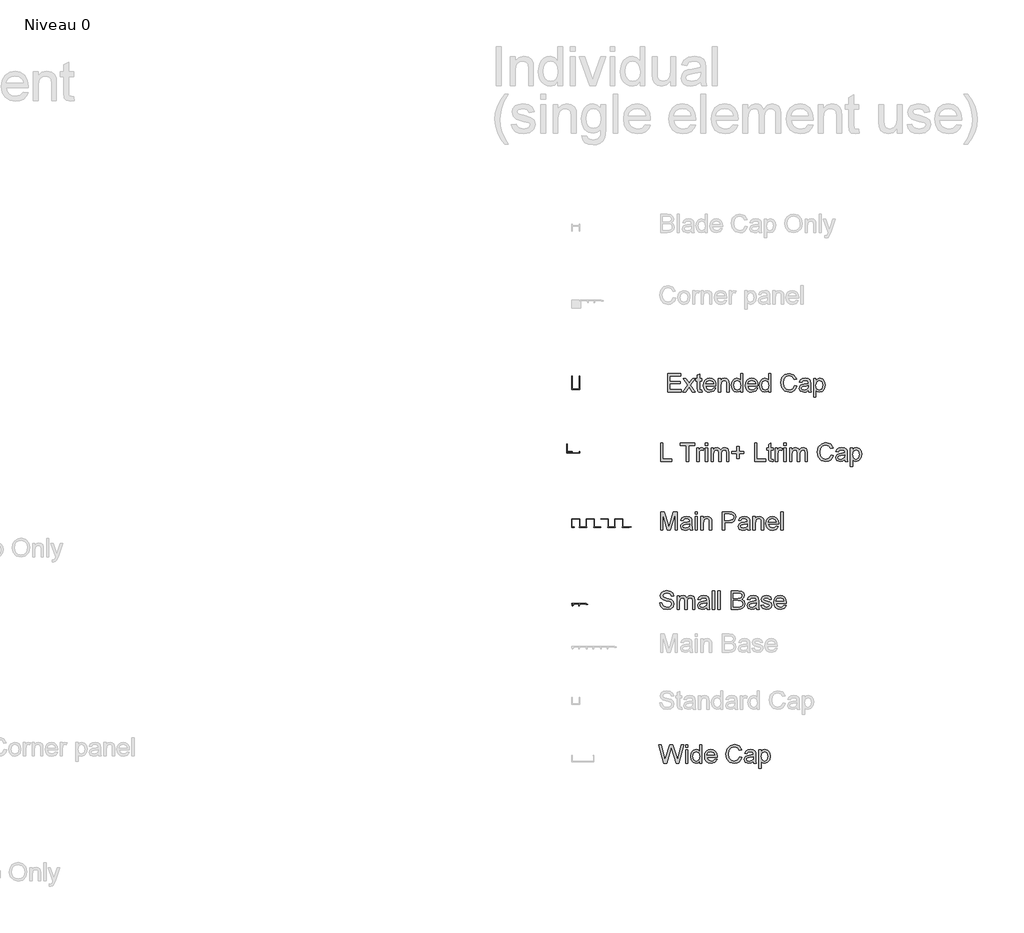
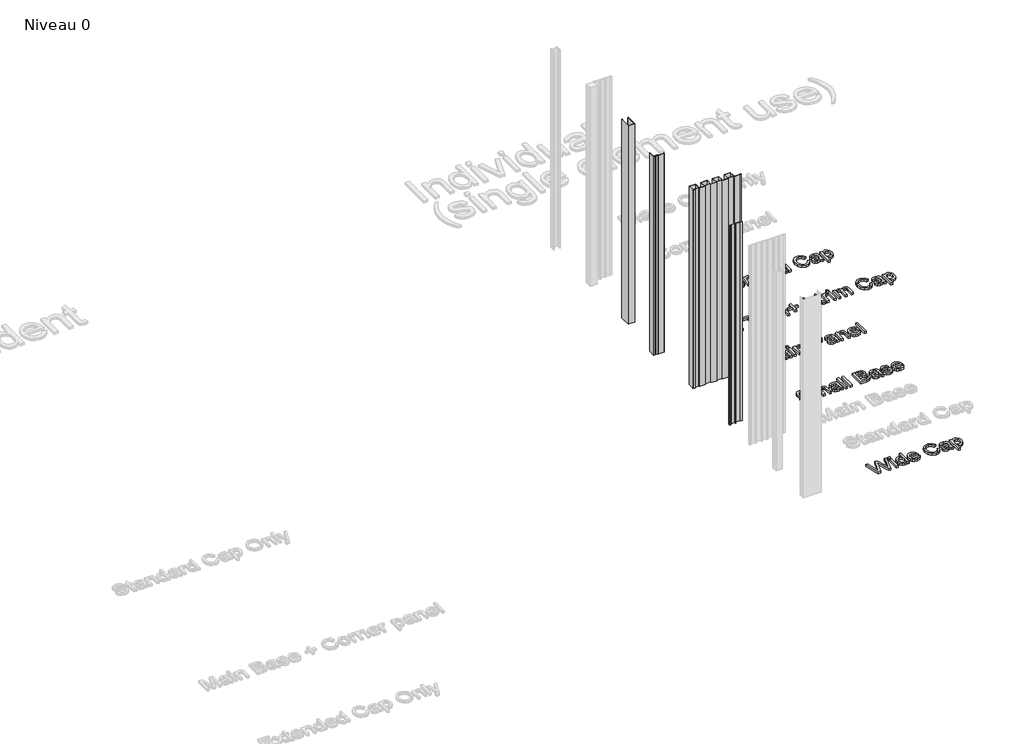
# One storey, part 23 of 25: 9 proxies.
"""IFC4 building model written with IfcOpenShell, lengths in millimetres."""

from ifc_helpers import new_model, si_unit, origin, origin_with_axes, place, context, project, spatial, polyline, outline, extrude, transform, mapped, element, save
from components import generic_models_2e917140, a_gen_extended_cap_a_gen_extended_cap_70ccaa3f, a_gen_l_trim_a_gen_l_trim_de64ca03, a_gen_main_panel_a_gen_main_panel_c979ea81

model = new_model("IFC4")

# Units and contexts
model_context = context("Model", 3, world=origin())
ifc_project = project(units=[si_unit("LENGTHUNIT", "METRE", prefix="MILLI")], contexts=[model_context])

# Site, building, storey
site = spatial("IfcSite", under=ifc_project)
building = spatial("IfcBuilding", under=site)
storey = spatial("IfcBuildingStorey", under=building, Name="Niveau 0", Elevation=0.0)

# Proxies
placement = place(None, origin())
generic_models_shape = generic_models_2e917140(model_context)
element("IfcBuildingElementProxy", 1, Name="A_GEN_ Small  Base : A_GEN_ Small  Base", ObjectType="A_GEN_ Small  Base : A_GEN_ Small  Base", at=placement, inside=storey, context=model_context, shape_type="MappedRepresentation", body=[
    mapped(generic_models_shape, transform((11211.7460162, 3111.5428955, 0.0), x_axis=(1.0, 0.0, 0.0), y_axis=(0.0, 1.0, 0.0), z_axis=(0.0, 0.0, 1.0))),
])
element("IfcBuildingElementProxy", 2, Name="70mm Arial", ObjectType="70mm Arial", at=placement, inside=storey, context=model_context, shape_type="SweptSolid", body=[
    extrude(outline(polyline([(11552.3839824, 3658.6197363), (11552.3839824, 3728.9391534), (11561.1739096, 3728.9391534), (11561.1739096, 3667.4096634), (11596.3336181, 3667.4096634), (11596.3336181, 3658.6197363), (11552.3839824, 3658.6197363)])), origin_with_axes(), (0.0, 0.0, 1.0), 10.0),
    extrude(outline(polyline([(11651.2706627, 3658.6197363), (11651.2706627, 3720.1492263), (11628.197104, 3720.1492263), (11628.197104, 3728.9391534), (11683.1341486, 3728.9391534), (11683.1341486, 3720.1492263), (11660.0605899, 3720.1492263), (11660.0605899, 3658.6197363), (11651.2706627, 3658.6197363)])), origin_with_axes(), (0.0, 0.0, 1.0), 10.0),
    extrude(outline(polyline([(11691.9240757, 3658.6197363), (11691.9240757, 3710.2605582), (11699.615262, 3710.2605582), (11699.615262, 3702.6208755), (11705.0746308, 3709.6596843), (11710.5683353, 3711.3592991), (11719.3925981, 3708.6467826), (11716.4568997, 3700.7667502), (11710.2764822, 3702.569372), (11705.3063965, 3700.8354215), (11702.1389325, 3696.0284301), (11700.7140029, 3685.7620699), (11700.7140029, 3658.6197363), (11691.9240757, 3658.6197363)])), origin_with_axes(), (0.0, 0.0, 1.0), 10.0),
    extrude(outline(polyline([(11724.8863025, 3658.6197363), (11724.8863025, 3710.2605582), (11733.6762296, 3710.2605582), (11733.6762296, 3658.6197363), (11724.8863025, 3658.6197363)])), origin_with_axes(), (0.0, 0.0, 1.0), 10.0),
    extrude(outline(polyline([(11724.8863025, 3720.1492263), (11724.8863025, 3728.9391534), (11733.6762296, 3728.9391534), (11733.6762296, 3720.1492263), (11724.8863025, 3720.1492263)])), origin_with_axes(), (0.0, 0.0, 1.0), 10.0),
    extrude(outline(polyline([(11746.8611204, 3658.6197363), (11746.8611204, 3710.2605582), (11755.6510475, 3710.2605582), (11755.6510475, 3701.7624842), (11761.6941224, 3708.7240378), (11770.2952034, 3711.3592991), (11779.1022984, 3708.6725343), (11783.9436255, 3701.1444424), (11790.8021721, 3708.805585), (11799.4633406, 3711.3592991), (11810.9572004, 3707.1102621), (11814.9830557, 3694.0197944), (11814.9830557, 3658.6197363), (11806.1931285, 3658.6197363), (11806.1931285, 3690.2428726), (11805.3776568, 3697.5821184), (11802.4247906, 3701.1959459), (11797.4032014, 3702.569372), (11788.7592008, 3699.0499676), (11785.3170516, 3687.7707056), (11785.3170516, 3658.6197363), (11776.5271244, 3658.6197363), (11776.5271244, 3691.2214387), (11774.492737, 3699.7366806), (11767.8230364, 3702.569372), (11761.3164302, 3700.6809111), (11756.990138, 3695.152871), (11755.6510475, 3684.663329), (11755.6510475, 3658.6197363), (11746.8611204, 3658.6197363)])), origin_with_axes(), (0.0, 0.0, 1.0), 10.0),
    extrude(outline(polyline([(11845.7478007, 3669.6071452), (11845.7478007, 3688.2857404), (11827.0692055, 3688.2857404), (11827.0692055, 3697.0756675), (11845.7478007, 3697.0756675), (11845.7478007, 3715.7542627), (11854.5377278, 3715.7542627), (11854.5377278, 3697.0756675), (11873.216323, 3697.0756675), (11873.216323, 3688.2857404), (11854.5377278, 3688.2857404), (11854.5377278, 3669.6071452), (11845.7478007, 3669.6071452)])), origin_with_axes(), (0.0, 0.0, 1.0), 10.0),
    extrude(outline(polyline([(11913.869736, 3658.6197363), (11913.869736, 3728.9391534), (11922.6596631, 3728.9391534), (11922.6596631, 3667.4096634), (11957.8193717, 3667.4096634), (11957.8193717, 3658.6197363), (11913.869736, 3658.6197363)])), origin_with_axes(), (0.0, 0.0, 1.0), 10.0),
    extrude(outline(polyline([(11985.287894, 3665.9503982), (11986.3866349, 3658.3622189), (11979.8113573, 3657.5209954), (11972.4463598, 3658.9802607), (11968.7724449, 3662.808686), (11967.7080397, 3672.7831931), (11967.7080397, 3701.4706311), (11961.1155943, 3701.4706311), (11961.1155943, 3710.2605582), (11967.7080397, 3710.2605582), (11967.7080397, 3722.8102394), (11976.4979668, 3727.9777551), (11976.4979668, 3710.2605582), (11985.287894, 3710.2605582), (11985.287894, 3701.4706311), (11976.4979668, 3701.4706311), (11976.4979668, 3673.0407105), (11976.9614982, 3668.5084043), (11978.463683, 3666.9032126), (11981.4594687, 3666.3109226), (11985.287894, 3665.9503982)])), origin_with_axes(), (0.0, 0.0, 1.0), 10.0),
    extrude(outline(polyline([(11994.0778211, 3658.6197363), (11994.0778211, 3710.2605582), (12001.7690074, 3710.2605582), (12001.7690074, 3702.6208755), (12007.2283762, 3709.6596843), (12012.7220806, 3711.3592991), (12021.5463434, 3708.6467826), (12018.6106451, 3700.7667502), (12012.4302276, 3702.569372), (12007.4601418, 3700.8354215), (12004.2926778, 3696.0284301), (12002.8677483, 3685.7620699), (12002.8677483, 3658.6197363), (11994.0778211, 3658.6197363)])), origin_with_axes(), (0.0, 0.0, 1.0), 10.0),
    extrude(outline(polyline([(12027.0400479, 3658.6197363), (12027.0400479, 3710.2605582), (12035.829975, 3710.2605582), (12035.829975, 3658.6197363), (12027.0400479, 3658.6197363)])), origin_with_axes(), (0.0, 0.0, 1.0), 10.0),
    extrude(outline(polyline([(12027.0400479, 3720.1492263), (12027.0400479, 3728.9391534), (12035.829975, 3728.9391534), (12035.829975, 3720.1492263), (12027.0400479, 3720.1492263)])), origin_with_axes(), (0.0, 0.0, 1.0), 10.0),
    extrude(outline(polyline([(12049.0148657, 3658.6197363), (12049.0148657, 3710.2605582), (12057.8047929, 3710.2605582), (12057.8047929, 3701.7624842), (12063.8478678, 3708.7240378), (12072.4489488, 3711.3592991), (12081.2560438, 3708.6725343), (12086.0973708, 3701.1444424), (12092.9559175, 3708.805585), (12101.6170859, 3711.3592991), (12113.1109457, 3707.1102621), (12117.136801, 3694.0197944), (12117.136801, 3658.6197363), (12108.3468739, 3658.6197363), (12108.3468739, 3690.2428726), (12107.5314022, 3697.5821184), (12104.578536, 3701.1959459), (12099.5569468, 3702.569372), (12090.9129462, 3699.0499676), (12087.470797, 3687.7707056), (12087.470797, 3658.6197363), (12078.6808698, 3658.6197363), (12078.6808698, 3691.2214387), (12076.6464824, 3699.7366806), (12069.9767818, 3702.569372), (12063.4701756, 3700.6809111), (12059.1438833, 3695.152871), (12057.8047929, 3684.663329), (12057.8047929, 3658.6197363), (12049.0148657, 3658.6197363)])), origin_with_axes(), (0.0, 0.0, 1.0), 10.0),
    extrude(outline(polyline([(12208.3322951, 3683.6160916), (12217.1222222, 3681.3499385), (12213.0663232, 3671.1071841), (12206.7013516, 3663.6241577), (12198.3406201, 3659.046786), (12188.2974416, 3657.5209954), (12170.0051226, 3662.1391407), (12159.275231, 3675.5128775), (12155.5927323, 3694.3116475), (12159.7559302, 3713.4194383), (12171.5931465, 3725.8060251), (12188.4862877, 3730.0378943), (12206.0918938, 3724.5613577), (12216.0234814, 3709.1446495), (12207.2335542, 3707.0501747), (12200.0230671, 3717.8573214), (12188.1429312, 3721.2479672), (12174.3915022, 3717.4882132), (12166.6230608, 3707.3935312), (12164.3826594, 3694.3288153), (12167.0350886, 3679.1867924), (12175.2928131, 3669.5127222), (12187.4218825, 3666.3109226), (12200.8728745, 3670.6715505), (12208.3322951, 3683.6160916)])), origin_with_axes(), (0.0, 0.0, 1.0), 10.0),
    extrude(outline(polyline([(12261.0718579, 3665.2121817), (12252.5480321, 3659.2549459), (12243.1314793, 3657.5209954), (12230.3672003, 3661.6927772), (12225.9121494, 3672.3539975), (12227.5945964, 3679.3069672), (12232.0153117, 3684.3543081), (12238.1699775, 3687.238503), (12245.7753246, 3688.5604256), (12261.0203545, 3691.5819631), (12261.0718579, 3693.5390953), (12258.6511944, 3700.0285337), (12248.9342046, 3702.569372), (12240.0412705, 3700.8783411), (12235.8008174, 3694.8781858), (12227.0108903, 3695.9769266), (12230.8135638, 3704.5608399), (12238.4704144, 3709.591013), (12250.0672812, 3711.3592991), (12260.7199175, 3709.7970269), (12266.7372407, 3705.8741786), (12269.4325894, 3699.9083589), (12269.8617851, 3692.2171727), (12269.8617851, 3681.2812672), (12270.3081486, 3666.0104856), (12272.0592669, 3658.6197363), (12263.2693397, 3658.6197363), (12261.0718579, 3665.2121817)]), holes=[polyline([(12261.0718579, 3682.7920359), (12246.8912333, 3680.0966872), (12239.3288057, 3678.6717576), (12235.9038244, 3676.354101), (12234.7020765, 3672.9720392), (12237.3201701, 3668.2165513), (12245.0027724, 3666.3109226), (12253.8957065, 3668.4139813), (12259.6297605, 3673.5042418), (12261.0203545, 3680.3027011), (12261.0718579, 3682.7920359)])]), origin_with_axes(), (0.0, 0.0, 1.0), 10.0),
    extrude(outline(polyline([(12281.9479349, 3638.8424002), (12281.9479349, 3710.2605582), (12290.737862, 3710.2605582), (12290.737862, 3701.6423094), (12296.8152726, 3708.9300517), (12305.0214936, 3711.3592991), (12316.163413, 3707.9600695), (12323.4425714, 3698.3804223), (12325.8975706, 3684.8350073), (12323.1249666, 3670.5942953), (12315.073256, 3660.8944733), (12303.9570884, 3657.5209954), (12296.3088217, 3659.7785646), (12290.737862, 3665.4868669), (12290.737862, 3638.8424002), (12281.9479349, 3638.8424002)]), holes=[polyline([(12290.737862, 3684.0281194), (12294.5405356, 3670.6372148), (12303.7682423, 3666.3109226), (12313.1847951, 3670.7917253), (12317.1076434, 3684.6804968), (12313.2792181, 3698.1057371), (12304.1287667, 3702.569372), (12294.798053, 3697.822468), (12290.737862, 3684.0281194)])]), origin_with_axes(), (0.0, 0.0, 1.0), 10.0),
])
element("IfcBuildingElementProxy", 3, Name="70mm Arial", ObjectType="70mm Arial", at=placement, inside=storey, context=model_context, shape_type="SweptSolid", body=[
    extrude(outline(polyline([(11552.3839824, 3393.8375085), (11552.3839824, 3464.1569256), (11567.5088375, 3464.1569256), (11581.8954761, 3414.5934107), (11584.7968387, 3404.2412113), (11587.938551, 3415.451802), (11602.08484, 3464.1569256), (11617.2096951, 3464.1569256), (11617.2096951, 3393.8375085), (11608.4197679, 3393.8375085), (11608.4197679, 3455.3669985), (11590.7540745, 3393.8375085), (11578.839603, 3393.8375085), (11561.1739096, 3455.3669985), (11561.1739096, 3393.8375085), (11552.3839824, 3393.8375085)])), origin_with_axes(), (0.0, 0.0, 1.0), 10.0),
    extrude(outline(polyline([(11664.4555534, 3400.4299539), (11655.9317276, 3394.4727181), (11646.5151748, 3392.7387676), (11633.7508958, 3396.9105495), (11629.2958449, 3407.5717697), (11630.9782919, 3414.5247394), (11635.3990072, 3419.5720804), (11641.553673, 3422.4562752), (11649.1590201, 3423.7781978), (11664.40405, 3426.7997353), (11664.4555534, 3428.7568675), (11662.0348899, 3435.2463059), (11652.3179001, 3437.7871442), (11643.424966, 3436.0961133), (11639.1845129, 3430.095958), (11630.3945858, 3431.1946989), (11634.1972593, 3439.7786121), (11641.8541099, 3444.8087852), (11653.4509767, 3446.5770713), (11664.103613, 3445.0147991), (11670.1209362, 3441.0919508), (11672.8162849, 3435.1261311), (11673.2454806, 3427.4349449), (11673.2454806, 3416.4990394), (11673.6918441, 3401.2282578), (11675.4429624, 3393.8375085), (11666.6530352, 3393.8375085), (11664.4555534, 3400.4299539)]), holes=[polyline([(11664.4555534, 3418.0098081), (11650.2749288, 3415.3144594), (11642.7125012, 3413.8895298), (11639.2875199, 3411.5718732), (11638.085772, 3408.1898114), (11640.7038656, 3403.4343235), (11648.3864679, 3401.5286948), (11657.279402, 3403.6317535), (11663.013456, 3408.722014), (11664.40405, 3415.5204733), (11664.4555534, 3418.0098081)])]), origin_with_axes(), (0.0, 0.0, 1.0), 10.0),
    extrude(outline(polyline([(11685.3316304, 3393.8375085), (11685.3316304, 3445.4783305), (11694.1215575, 3445.4783305), (11694.1215575, 3393.8375085), (11685.3316304, 3393.8375085)])), origin_with_axes(), (0.0, 0.0, 1.0), 10.0),
    extrude(outline(polyline([(11685.3316304, 3455.3669985), (11685.3316304, 3464.1569256), (11694.1215575, 3464.1569256), (11694.1215575, 3455.3669985), (11685.3316304, 3455.3669985)])), origin_with_axes(), (0.0, 0.0, 1.0), 10.0),
    extrude(outline(polyline([(11707.3064482, 3393.8375085), (11707.3064482, 3445.4783305), (11716.0963754, 3445.4783305), (11716.0963754, 3438.2678434), (11722.8175794, 3444.4997643), (11731.9937827, 3446.5770713), (11740.2944267, 3444.9032083), (11745.9598095, 3440.5082447), (11748.5950708, 3434.044558), (11749.0586021, 3425.546484), (11749.0586021, 3393.8375085), (11740.268675, 3393.8375085), (11740.268675, 3424.3619039), (11739.2557732, 3432.1389293), (11735.6762814, 3436.2506237), (11729.6417904, 3437.7871442), (11720.1050628, 3434.3364111), (11716.0963754, 3421.2373595), (11716.0963754, 3393.8375085), (11707.3064482, 3393.8375085)])), origin_with_axes(), (0.0, 0.0, 1.0), 10.0),
    extrude(outline(polyline([(11789.7120152, 3393.8375085), (11789.7120152, 3464.1569256), (11815.7727757, 3464.1569256), (11826.2794855, 3463.4873804), (11834.8204791, 3460.1997416), (11840.3571032, 3453.4012824), (11842.451578, 3443.8130513), (11836.7947792, 3428.6195249), (11828.8610974, 3423.95846), (11816.3736496, 3422.4047717), (11798.5019423, 3422.4047717), (11798.5019423, 3393.8375085), (11789.7120152, 3393.8375085)]), holes=[polyline([(11798.5019423, 3431.1946989), (11816.8886844, 3431.1946989), (11829.8332255, 3434.4222502), (11833.6616508, 3443.5040304), (11831.4040817, 3450.7831888), (11825.4725976, 3454.7661246), (11816.6826705, 3455.3669985), (11798.5019423, 3455.3669985), (11798.5019423, 3431.1946989)])]), origin_with_axes(), (0.0, 0.0, 1.0), 10.0),
    extrude(outline(polyline([(11886.4012137, 3400.4299539), (11877.8773878, 3394.4727181), (11868.460835, 3392.7387676), (11855.6965561, 3396.9105495), (11851.2415051, 3407.5717697), (11852.9239521, 3414.5247394), (11857.3446674, 3419.5720804), (11863.4993332, 3422.4562752), (11871.1046803, 3423.7781978), (11886.3497102, 3426.7997353), (11886.4012137, 3428.7568675), (11883.9805501, 3435.2463059), (11874.2635604, 3437.7871442), (11865.3706263, 3436.0961133), (11861.1301732, 3430.095958), (11852.340246, 3431.1946989), (11856.1429196, 3439.7786121), (11863.7997702, 3444.8087852), (11875.3966369, 3446.5770713), (11886.0492732, 3445.0147991), (11892.0665964, 3441.0919508), (11894.7619452, 3435.1261311), (11895.1911408, 3427.4349449), (11895.1911408, 3416.4990394), (11895.6375043, 3401.2282578), (11897.3886226, 3393.8375085), (11888.5986955, 3393.8375085), (11886.4012137, 3400.4299539)]), holes=[polyline([(11886.4012137, 3418.0098081), (11872.220589, 3415.3144594), (11864.6581615, 3413.8895298), (11861.2331801, 3411.5718732), (11860.0314323, 3408.1898114), (11862.6495258, 3403.4343235), (11870.3321281, 3401.5286948), (11879.2250622, 3403.6317535), (11884.9591163, 3408.722014), (11886.3497102, 3415.5204733), (11886.4012137, 3418.0098081)])]), origin_with_axes(), (0.0, 0.0, 1.0), 10.0),
    extrude(outline(polyline([(11907.2772906, 3393.8375085), (11907.2772906, 3445.4783305), (11916.0672178, 3445.4783305), (11916.0672178, 3438.2678434), (11922.7884218, 3444.4997643), (11931.9646251, 3446.5770713), (11940.2652691, 3444.9032083), (11945.9306519, 3440.5082447), (11948.5659132, 3434.044558), (11949.0294445, 3425.546484), (11949.0294445, 3393.8375085), (11940.2395174, 3393.8375085), (11940.2395174, 3424.3619039), (11939.2266156, 3432.1389293), (11935.6471238, 3436.2506237), (11929.6126328, 3437.7871442), (11920.0759052, 3434.3364111), (11916.0672178, 3421.2373595), (11916.0672178, 3393.8375085), (11907.2772906, 3393.8375085)])), origin_with_axes(), (0.0, 0.0, 1.0), 10.0),
    extrude(outline(polyline([(11997.2710368, 3409.219881), (12005.8892857, 3408.1211401), (11997.8289912, 3396.7732068), (11982.815727, 3392.7387676), (11972.5021552, 3394.479156), (11964.5663275, 3399.7003212), (11959.5061106, 3408.0631987), (11957.8193717, 3419.2287238), (11959.5232784, 3430.7697952), (11964.6349988, 3439.4009199), (11972.4635276, 3444.7830335), (11982.31786, 3446.5770713), (11991.8653175, 3444.7873254), (11999.4942704, 3439.4180877), (12004.4965458, 3430.8041308), (12006.1639709, 3419.2802273), (12006.1124675, 3416.9110673), (11966.6092988, 3416.9110673), (11971.6652237, 3405.4944627), (11982.9874052, 3401.5286948), (11991.6056541, 3403.3656522), (11997.2710368, 3409.219881)]), holes=[polyline([(11966.6092988, 3425.7009944), (11997.3740438, 3425.7009944), (11993.8546394, 3433.6668659), (11982.2835244, 3437.7871442), (11971.4592098, 3434.4995054), (11966.6092988, 3425.7009944)])]), origin_with_axes(), (0.0, 0.0, 1.0), 10.0),
    extrude(outline(polyline([(12014.9538981, 3393.8375085), (12014.9538981, 3464.1569256), (12023.7438252, 3464.1569256), (12023.7438252, 3393.8375085), (12014.9538981, 3393.8375085)])), origin_with_axes(), (0.0, 0.0, 1.0), 10.0),
])
element("IfcBuildingElementProxy", 4, Name="70mm Arial", ObjectType="70mm Arial", at=placement, inside=storey, context=model_context, shape_type="SweptSolid", body=[
    extrude(outline(polyline([(11549.0877597, 3113.815355), (11557.8776869, 3113.815355), (11560.7103783, 3105.0168439), (11567.6290123, 3099.4544681), (11578.1700577, 3097.3342416), (11587.3548449, 3098.9394334), (11593.2863289, 3103.3515648), (11595.2348772, 3109.2487131), (11593.775612, 3114.7338337), (11587.8012084, 3118.7253533), (11575.0025938, 3122.0816634), (11561.225413, 3126.4165396), (11553.7488246, 3132.9574814), (11551.2852415, 3141.6959051), (11554.3325307, 3151.6446605), (11563.2340487, 3158.6663015), (11576.264429, 3161.0612133), (11590.1703684, 3158.5547107), (11599.4409947, 3151.1897131), (11602.9260635, 3140.1851364), (11594.1361363, 3140.1851364), (11589.1574667, 3149.2154131), (11576.6077855, 3152.2712862), (11564.0237688, 3149.2497487), (11560.0751687, 3141.9534225), (11562.8735244, 3135.8588441), (11577.2258273, 3130.9488458), (11592.779878, 3126.5367144), (11601.286536, 3119.4120664), (11604.0248044, 3109.4718949), (11600.8745082, 3098.9566012), (11591.8098958, 3091.2825828), (11578.5134143, 3088.5443144), (11562.813437, 3091.4971806), (11552.8818494, 3100.3901147), (11549.0877597, 3113.815355)])), origin_with_axes(), (0.0, 0.0, 1.0), 10.0),
    extrude(outline(polyline([(11616.1109542, 3089.6430553), (11616.1109542, 3141.2838773), (11624.9008813, 3141.2838773), (11624.9008813, 3132.7858032), (11630.9439562, 3139.7473568), (11639.5450373, 3142.3826182), (11648.3521322, 3139.6958533), (11653.1934593, 3132.1677614), (11660.052006, 3139.828904), (11668.7131744, 3142.3826182), (11680.2070342, 3138.1335811), (11684.2328895, 3125.0431135), (11684.2328895, 3089.6430553), (11675.4429624, 3089.6430553), (11675.4429624, 3121.2661916), (11674.6274906, 3128.6054374), (11671.6746245, 3132.2192649), (11666.6530352, 3133.592691), (11658.0090346, 3130.0732866), (11654.5668854, 3118.7940246), (11654.5668854, 3089.6430553), (11645.7769583, 3089.6430553), (11645.7769583, 3122.2447577), (11643.7425708, 3130.7599997), (11637.0728703, 3133.592691), (11630.566264, 3131.7042301), (11626.2399718, 3126.17619), (11624.9008813, 3115.686648), (11624.9008813, 3089.6430553), (11616.1109542, 3089.6430553)])), origin_with_axes(), (0.0, 0.0, 1.0), 10.0),
    extrude(outline(polyline([(11730.380007, 3096.2355007), (11721.8561811, 3090.2782649), (11712.4396283, 3088.5443144), (11699.6753494, 3092.7160963), (11695.2202984, 3103.3773165), (11696.9027454, 3110.3302862), (11701.3234607, 3115.3776272), (11707.4781265, 3118.261822), (11715.0834736, 3119.5837447), (11730.3285035, 3122.6052821), (11730.380007, 3124.5624143), (11727.9593434, 3131.0518527), (11718.2423537, 3133.592691), (11709.3494196, 3131.9016601), (11705.1089665, 3125.9015048), (11696.3190393, 3127.0002457), (11700.1217129, 3135.5841589), (11707.7785635, 3140.614332), (11719.3754302, 3142.3826182), (11730.0280665, 3140.820346), (11736.0453897, 3136.8974976), (11738.7407385, 3130.9316779), (11739.1699341, 3123.2404917), (11739.1699341, 3112.3045862), (11739.6162976, 3097.0338046), (11741.3674159, 3089.6430553), (11732.5774888, 3089.6430553), (11730.380007, 3096.2355007)]), holes=[polyline([(11730.380007, 3113.815355), (11716.1993823, 3111.1200062), (11708.6369548, 3109.6950766), (11705.2119734, 3107.3774201), (11704.0102256, 3103.9953582), (11706.6283191, 3099.2398703), (11714.3109214, 3097.3342416), (11723.2038555, 3099.4373003), (11728.9379096, 3104.5275609), (11730.3285035, 3111.3260201), (11730.380007, 3113.815355)])]), origin_with_axes(), (0.0, 0.0, 1.0), 10.0),
    extrude(outline(polyline([(11751.2560839, 3089.6430553), (11751.2560839, 3159.9624724), (11760.0460111, 3159.9624724), (11760.0460111, 3089.6430553), (11751.2560839, 3089.6430553)])), origin_with_axes(), (0.0, 0.0, 1.0), 10.0),
    extrude(outline(polyline([(11773.2309018, 3089.6430553), (11773.2309018, 3159.9624724), (11782.0208289, 3159.9624724), (11782.0208289, 3089.6430553), (11773.2309018, 3089.6430553)])), origin_with_axes(), (0.0, 0.0, 1.0), 10.0),
    extrude(outline(polyline([(11823.7729828, 3089.6430553), (11823.7729828, 3159.9624724), (11850.6062955, 3159.9624724), (11863.7482667, 3157.8937494), (11871.5081242, 3151.5330697), (11874.3150639, 3142.5371286), (11871.9544877, 3134.3223237), (11864.8212558, 3128.0989866), (11873.4824243, 3121.5408769), (11876.5125456, 3110.6049714), (11874.4438226, 3101.154083), (11869.3192264, 3094.424295), (11861.6709597, 3090.8533871), (11850.4002816, 3089.6430553), (11823.7729828, 3089.6430553)]), holes=[polyline([(11832.56291, 3098.4329825), (11850.5891277, 3098.4329825), (11857.1129018, 3098.776339), (11862.632358, 3100.6905517), (11866.289105, 3104.5962322), (11867.7226185, 3110.5191323), (11866.0401715, 3117.3519272), (11860.5893866, 3121.429286), (11849.7307364, 3122.6052821), (11832.56291, 3122.6052821), (11832.56291, 3098.4329825)]), polyline([(11832.56291, 3131.3952092), (11848.6148277, 3131.3952092), (11857.9884609, 3132.1505936), (11863.6280919, 3135.4038967), (11865.5251367, 3141.1293668), (11863.7568506, 3146.8634209), (11858.6923418, 3150.2540666), (11847.395912, 3151.1725453), (11832.56291, 3151.1725453), (11832.56291, 3131.3952092)])]), origin_with_axes(), (0.0, 0.0, 1.0), 10.0),
    extrude(outline(polyline([(11920.4621813, 3096.2355007), (11911.9383555, 3090.2782649), (11902.5218027, 3088.5443144), (11889.7575237, 3092.7160963), (11885.3024728, 3103.3773165), (11886.9849198, 3110.3302862), (11891.4056351, 3115.3776272), (11897.5603009, 3118.261822), (11905.165648, 3119.5837447), (11920.4106779, 3122.6052821), (11920.4621813, 3124.5624143), (11918.0415178, 3131.0518527), (11908.324528, 3133.592691), (11899.4315939, 3131.9016601), (11895.1911408, 3125.9015048), (11886.4012137, 3127.0002457), (11890.2038872, 3135.5841589), (11897.8607378, 3140.614332), (11909.4576046, 3142.3826182), (11920.1102409, 3140.820346), (11926.1275641, 3136.8974976), (11928.8229128, 3130.9316779), (11929.2521085, 3123.2404917), (11929.2521085, 3112.3045862), (11929.698472, 3097.0338046), (11931.4495903, 3089.6430553), (11922.6596631, 3089.6430553), (11920.4621813, 3096.2355007)]), holes=[polyline([(11920.4621813, 3113.815355), (11906.2815567, 3111.1200062), (11898.7191291, 3109.6950766), (11895.2941478, 3107.3774201), (11894.0923999, 3103.9953582), (11896.7104935, 3099.2398703), (11904.3930958, 3097.3342416), (11913.2860299, 3099.4373003), (11919.0200839, 3104.5275609), (11920.4106779, 3111.3260201), (11920.4621813, 3113.815355)])]), origin_with_axes(), (0.0, 0.0, 1.0), 10.0),
    extrude(outline(polyline([(11938.0420356, 3105.0254278), (11946.8319627, 3106.1241687), (11950.9007376, 3099.6003947), (11960.2228674, 3097.3342416), (11969.1844728, 3099.4115486), (11972.1030033, 3104.2872113), (11969.1673049, 3108.2358114), (11960.1198604, 3110.742314), (11946.8834662, 3115.0428546), (11941.1064926, 3120.0644438), (11939.1407765, 3127.1547561), (11940.7202165, 3133.7042819), (11945.029341, 3138.7087033), (11950.6174685, 3141.309629), (11958.179896, 3142.3826182), (11968.8754519, 3140.6572516), (11975.6739112, 3135.9876028), (11978.6954486, 3128.0989866), (11969.9055215, 3127.0002457), (11966.6007149, 3131.8501566), (11958.8666091, 3133.592691), (11950.4543741, 3131.9274119), (11947.9307036, 3128.0474831), (11948.9779411, 3125.4894769), (11952.2569959, 3123.5495126), (11959.8280074, 3121.6782195), (11972.7296289, 3117.5407733), (11978.7212004, 3112.8539567), (11980.8929304, 3105.2142739), (11978.3435082, 3096.802039), (11970.9870946, 3090.6988767), (11960.1026926, 3088.5443144), (11944.7718236, 3092.6989284), (11938.0420356, 3105.0254278)])), origin_with_axes(), (0.0, 0.0, 1.0), 10.0),
    extrude(outline(polyline([(12026.9370409, 3105.0254278), (12035.5552898, 3103.9266869), (12027.4949953, 3092.5787537), (12012.4817311, 3088.5443144), (12002.1681593, 3090.2847029), (11994.2323316, 3095.5058681), (11989.1721147, 3103.8687455), (11987.4853758, 3115.0342706), (11989.1892825, 3126.575342), (11994.3010029, 3135.2064667), (12002.1295317, 3140.5885803), (12011.9838641, 3142.3826182), (12021.5313216, 3140.5928723), (12029.1602744, 3135.2236345), (12034.1625499, 3126.6096776), (12035.829975, 3115.0857741), (12035.7784715, 3112.7166141), (11996.2753029, 3112.7166141), (12001.3312278, 3101.3000095), (12012.6534093, 3097.3342416), (12021.2716582, 3099.171199), (12026.9370409, 3105.0254278)]), holes=[polyline([(11996.2753029, 3121.5065412), (12027.0400479, 3121.5065412), (12023.5206435, 3129.4724127), (12011.9495284, 3133.592691), (12001.1252139, 3130.3050523), (11996.2753029, 3121.5065412)])]), origin_with_axes(), (0.0, 0.0, 1.0), 10.0),
])
element("IfcBuildingElementProxy", 5, Name="70mm Arial", ObjectType="70mm Arial", at=placement, inside=storey, context=model_context, shape_type="SweptSolid", body=[
    extrude(outline(polyline([(11564.9679992, 2497.4858688), (11545.7915371, 2567.8052859), (11554.8561494, 2567.8052859), (11565.980901, 2521.5894971), (11569.4144663, 2507.3230334), (11573.0883811, 2519.9413858), (11587.0286562, 2567.8052859), (11600.0933721, 2567.8052859), (11610.2223897, 2533.1091087), (11617.7590655, 2507.3230334), (11621.0896238, 2521.1774693), (11632.3173823, 2567.8052859), (11641.3819947, 2567.8052859), (11622.1883647, 2497.4858688), (11612.7975637, 2497.4858688), (11595.9387581, 2551.7362004), (11593.5867659, 2559.3072118), (11590.9429206, 2550.191096), (11575.5777159, 2497.4858688), (11564.9679992, 2497.4858688)])), origin_with_axes(), (0.0, 0.0, 1.0), 10.0),
    extrude(outline(polyline([(11649.0731809, 2559.0153588), (11649.0731809, 2567.8052859), (11657.8631081, 2567.8052859), (11657.8631081, 2559.0153588), (11649.0731809, 2559.0153588)])), origin_with_axes(), (0.0, 0.0, 1.0), 10.0),
    extrude(outline(polyline([(11649.0731809, 2497.4858688), (11649.0731809, 2549.1266907), (11657.8631081, 2549.1266907), (11657.8631081, 2497.4858688), (11649.0731809, 2497.4858688)])), origin_with_axes(), (0.0, 0.0, 1.0), 10.0),
    extrude(outline(polyline([(11702.9114847, 2497.4858688), (11702.9114847, 2505.777929), (11697.0958835, 2498.7348282), (11689.0570487, 2496.3871279), (11678.1726468, 2499.7863575), (11670.4814605, 2509.2715817), (11667.7517761, 2523.2547763), (11670.2668627, 2537.2465548), (11677.8035385, 2546.8777055), (11689.0227131, 2550.2254316), (11697.1259272, 2547.8305198), (11702.9114847, 2541.6071828), (11702.9114847, 2567.8052859), (11711.7014118, 2567.8052859), (11711.7014118, 2497.4858688), (11702.9114847, 2497.4858688)]), holes=[polyline([(11676.5417033, 2523.2891119), (11680.5074712, 2509.6836095), (11689.8639366, 2505.1770551), (11699.1088111, 2509.4775956), (11702.9114847, 2522.6195667), (11699.0401398, 2536.8860305), (11689.5034122, 2541.4355045), (11680.2499538, 2537.0662927), (11676.5417033, 2523.2891119)])]), origin_with_axes(), (0.0, 0.0, 1.0), 10.0),
    extrude(outline(polyline([(11761.041745, 2512.8682413), (11769.6599939, 2511.7695004), (11761.5996994, 2500.4215671), (11746.5864351, 2496.3871279), (11736.2728634, 2498.1275163), (11728.3370356, 2503.3486815), (11723.2768188, 2511.711559), (11721.5900798, 2522.8770841), (11723.2939866, 2534.4181554), (11728.4057069, 2543.0492802), (11736.2342358, 2548.4313938), (11746.0885682, 2550.2254316), (11755.6360256, 2548.4356857), (11763.2649785, 2543.066448), (11768.267254, 2534.4524911), (11769.9346791, 2522.9285876), (11769.8831756, 2520.5594275), (11730.380007, 2520.5594275), (11735.4359319, 2509.142823), (11746.7581134, 2505.1770551), (11755.3763623, 2507.0140125), (11761.041745, 2512.8682413)]), holes=[polyline([(11730.380007, 2529.3493547), (11761.144752, 2529.3493547), (11757.6253475, 2537.3152262), (11746.0542325, 2541.4355045), (11735.2299179, 2538.1478657), (11730.380007, 2529.3493547)])]), origin_with_axes(), (0.0, 0.0, 1.0), 10.0),
    extrude(outline(polyline([(11856.7352096, 2522.4822241), (11865.5251367, 2520.216071), (11861.4692377, 2509.9733166), (11855.1042661, 2502.4902902), (11846.7435346, 2497.9129185), (11836.7003561, 2496.3871279), (11818.4080371, 2501.0052732), (11807.6781455, 2514.37901), (11803.9956468, 2533.17778), (11808.1588447, 2552.2855708), (11819.996061, 2564.6721576), (11836.8892022, 2568.9040268), (11854.4948082, 2563.4274902), (11864.4263958, 2548.010782), (11855.6364687, 2545.9163072), (11848.4259816, 2556.7234539), (11836.5458457, 2560.1140997), (11822.7944167, 2556.3543457), (11815.0259752, 2546.2596637), (11812.7855739, 2533.1949478), (11815.4380031, 2518.0529249), (11823.6957276, 2508.3788547), (11835.824797, 2505.1770551), (11849.275789, 2509.537683), (11856.7352096, 2522.4822241)])), origin_with_axes(), (0.0, 0.0, 1.0), 10.0),
    extrude(outline(polyline([(11909.4747724, 2504.0783142), (11900.9509466, 2498.1210784), (11891.5343938, 2496.3871279), (11878.7701148, 2500.5589097), (11874.3150639, 2511.22013), (11875.9975109, 2518.1730997), (11880.4182262, 2523.2204406), (11886.5728919, 2526.1046355), (11894.1782391, 2527.4265581), (11909.4232689, 2530.4480956), (11909.4747724, 2532.4052278), (11907.0541089, 2538.8946662), (11897.3371191, 2541.4355045), (11888.444185, 2539.7444736), (11884.2037319, 2533.7443183), (11875.4138048, 2534.8430591), (11879.2164783, 2543.4269724), (11886.8733289, 2548.4571455), (11898.4701957, 2550.2254316), (11909.122832, 2548.6631594), (11915.1401551, 2544.7403111), (11917.8355039, 2538.7744914), (11918.2646995, 2531.0833052), (11918.2646995, 2520.1473997), (11918.711063, 2504.8766181), (11920.4621813, 2497.4858688), (11911.6722542, 2497.4858688), (11909.4747724, 2504.0783142)]), holes=[polyline([(11909.4747724, 2521.6581684), (11895.2941478, 2518.9628197), (11887.7317202, 2517.5378901), (11884.3067388, 2515.2202335), (11883.104991, 2511.8381717), (11885.7230845, 2507.0826838), (11893.4056869, 2505.1770551), (11902.298621, 2507.2801138), (11908.032675, 2512.3703743), (11909.4232689, 2519.1688336), (11909.4747724, 2521.6581684)])]), origin_with_axes(), (0.0, 0.0, 1.0), 10.0),
    extrude(outline(polyline([(11930.3508494, 2477.7085327), (11930.3508494, 2549.1266907), (11939.1407765, 2549.1266907), (11939.1407765, 2540.5084419), (11945.2181871, 2547.7961842), (11953.4244081, 2550.2254316), (11964.5663275, 2546.826202), (11971.8454859, 2537.2465548), (11974.3004851, 2523.7011398), (11971.5278811, 2509.4604277), (11963.4761705, 2499.7606058), (11952.3600029, 2496.3871279), (11944.7117362, 2498.6446971), (11939.1407765, 2504.3529994), (11939.1407765, 2477.7085327), (11930.3508494, 2477.7085327)]), holes=[polyline([(11939.1407765, 2522.8942519), (11942.9434501, 2509.5033473), (11952.1711568, 2505.1770551), (11961.5877096, 2509.6578578), (11965.5105579, 2523.5466293), (11961.6821326, 2536.9718696), (11952.5316811, 2541.4355045), (11943.2009675, 2536.6886005), (11939.1407765, 2522.8942519)])]), origin_with_axes(), (0.0, 0.0, 1.0), 10.0),
])
element("IfcBuildingElementProxy", 6, Name="70mm Arial", ObjectType="70mm Arial", at=placement, inside=storey, context=model_context, shape_type="SweptSolid", body=[
    extrude(outline(polyline([(11579.8525047, 3925.2276949), (11579.8525047, 3995.547112), (11630.3945858, 3995.547112), (11630.3945858, 3986.7571849), (11588.6424319, 3986.7571849), (11588.6424319, 3965.8811079), (11628.197104, 3965.8811079), (11628.197104, 3957.0911808), (11588.6424319, 3957.0911808), (11588.6424319, 3934.0176221), (11631.4933267, 3934.0176221), (11631.4933267, 3925.2276949), (11579.8525047, 3925.2276949)])), origin_with_axes(), (0.0, 0.0, 1.0), 10.0),
    extrude(outline(polyline([(11638.085772, 3925.2276949), (11656.8673742, 3951.1854485), (11639.1845129, 3976.8685169), (11649.759894, 3976.8685169), (11658.2923037, 3964.5076818), (11662.2752395, 3958.6706208), (11665.7259726, 3963.4432766), (11675.4429624, 3976.8685169), (11686.0183434, 3976.8685169), (11667.4427552, 3951.1854485), (11685.3316304, 3925.2276949), (11674.7562493, 3925.2276949), (11663.9920221, 3940.8332492), (11662.0177221, 3943.6831084), (11648.6611531, 3925.2276949), (11638.085772, 3925.2276949)])), origin_with_axes(), (0.0, 0.0, 1.0), 10.0),
    extrude(outline(polyline([(11711.7014118, 3932.5583568), (11712.8001527, 3924.9701775), (11706.2248752, 3924.128954), (11698.8598776, 3925.5882193), (11695.1859628, 3929.4166446), (11694.1215575, 3939.3911517), (11694.1215575, 3968.0785897), (11687.5291122, 3968.0785897), (11687.5291122, 3976.8685169), (11694.1215575, 3976.8685169), (11694.1215575, 3989.418198), (11702.9114847, 3994.5857138), (11702.9114847, 3976.8685169), (11711.7014118, 3976.8685169), (11711.7014118, 3968.0785897), (11702.9114847, 3968.0785897), (11702.9114847, 3939.6486691), (11703.375016, 3935.116363), (11704.8772008, 3933.5111712), (11707.8729865, 3932.9188812), (11711.7014118, 3932.5583568)])), origin_with_axes(), (0.0, 0.0, 1.0), 10.0),
    extrude(outline(polyline([(11756.6467814, 3940.6100674), (11765.2650303, 3939.5113265), (11757.2047358, 3928.1633933), (11742.1914716, 3924.128954), (11731.8778998, 3925.8693424), (11723.9420721, 3931.0905077), (11718.8818552, 3939.4533851), (11717.1951163, 3950.6189102), (11718.899023, 3962.1599816), (11724.0107434, 3970.7911063), (11731.8392722, 3976.1732199), (11741.6936046, 3977.9672578), (11751.2410621, 3976.1775119), (11758.870015, 3970.8082741), (11763.8722904, 3962.1943172), (11765.5397155, 3950.6704137), (11765.488212, 3948.3012537), (11725.9850434, 3948.3012537), (11731.0409683, 3936.8846491), (11742.3631498, 3932.9188812), (11750.9813987, 3934.7558386), (11756.6467814, 3940.6100674)]), holes=[polyline([(11725.9850434, 3957.0911808), (11756.7497884, 3957.0911808), (11753.230384, 3965.0570523), (11741.6592689, 3969.1773306), (11730.8349544, 3965.8896919), (11725.9850434, 3957.0911808)])]), origin_with_axes(), (0.0, 0.0, 1.0), 10.0),
    extrude(outline(polyline([(11774.3296427, 3925.2276949), (11774.3296427, 3976.8685169), (11783.1195698, 3976.8685169), (11783.1195698, 3969.6580298), (11789.8407739, 3975.8899508), (11799.0169771, 3977.9672578), (11807.3176212, 3976.2933947), (11812.9830039, 3971.8984311), (11815.6182653, 3965.4347445), (11816.0817966, 3956.9366704), (11816.0817966, 3925.2276949), (11807.2918694, 3925.2276949), (11807.2918694, 3955.7520903), (11806.2789677, 3963.5291157), (11802.6994759, 3967.6408102), (11796.6649849, 3969.1773306), (11787.1282573, 3965.7265975), (11783.1195698, 3952.6275459), (11783.1195698, 3925.2276949), (11774.3296427, 3925.2276949)])), origin_with_axes(), (0.0, 0.0, 1.0), 10.0),
    extrude(outline(polyline([(11860.0314323, 3925.2276949), (11860.0314323, 3933.5197551), (11854.2158311, 3926.4766543), (11846.1769963, 3924.128954), (11835.2925944, 3927.5281837), (11827.6014081, 3937.0134078), (11824.8717237, 3950.9966024), (11827.3868103, 3964.988381), (11834.9234861, 3974.6195316), (11846.1426607, 3977.9672578), (11854.2458747, 3975.572346), (11860.0314323, 3969.3490089), (11860.0314323, 3995.547112), (11868.8213594, 3995.547112), (11868.8213594, 3925.2276949), (11860.0314323, 3925.2276949)]), holes=[polyline([(11833.6616508, 3951.0309381), (11837.6274188, 3937.4254356), (11846.9838842, 3932.9188812), (11856.2287587, 3937.2194217), (11860.0314323, 3950.3613928), (11856.1600874, 3964.6278566), (11846.6233598, 3969.1773306), (11837.3699014, 3964.8081188), (11833.6616508, 3951.0309381)])]), origin_with_axes(), (0.0, 0.0, 1.0), 10.0),
    extrude(outline(polyline([(11918.1616926, 3940.6100674), (11926.7799415, 3939.5113265), (11918.719647, 3928.1633933), (11903.7063827, 3924.128954), (11893.392811, 3925.8693424), (11885.4569832, 3931.0905077), (11880.3967664, 3939.4533851), (11878.7100274, 3950.6189102), (11880.4139342, 3962.1599816), (11885.5256545, 3970.7911063), (11893.3541834, 3976.1732199), (11903.2085158, 3977.9672578), (11912.7559732, 3976.1775119), (11920.3849261, 3970.8082741), (11925.3872015, 3962.1943172), (11927.0546267, 3950.6704137), (11927.0031232, 3948.3012537), (11887.4999546, 3948.3012537), (11892.5558795, 3936.8846491), (11903.878061, 3932.9188812), (11912.4963099, 3934.7558386), (11918.1616926, 3940.6100674)]), holes=[polyline([(11887.4999546, 3957.0911808), (11918.2646995, 3957.0911808), (11914.7452951, 3965.0570523), (11903.1741801, 3969.1773306), (11892.3498655, 3965.8896919), (11887.4999546, 3957.0911808)])]), origin_with_axes(), (0.0, 0.0, 1.0), 10.0),
    extrude(outline(polyline([(11967.7080397, 3925.2276949), (11967.7080397, 3933.5197551), (11961.8924385, 3926.4766543), (11953.8536038, 3924.128954), (11942.9692018, 3927.5281837), (11935.2780156, 3937.0134078), (11932.5483311, 3950.9966024), (11935.0634177, 3964.988381), (11942.6000935, 3974.6195316), (11953.8192681, 3977.9672578), (11961.9224822, 3975.572346), (11967.7080397, 3969.3490089), (11967.7080397, 3995.547112), (11976.4979668, 3995.547112), (11976.4979668, 3925.2276949), (11967.7080397, 3925.2276949)]), holes=[polyline([(11941.3382583, 3951.0309381), (11945.3040262, 3937.4254356), (11954.6604916, 3932.9188812), (11963.9053661, 3937.2194217), (11967.7080397, 3950.3613928), (11963.8366948, 3964.6278566), (11954.2999673, 3969.1773306), (11945.0465088, 3964.8081188), (11941.3382583, 3951.0309381)])]), origin_with_axes(), (0.0, 0.0, 1.0), 10.0),
    extrude(outline(polyline([(12067.6934609, 3950.2240502), (12076.483388, 3947.9578971), (12072.427489, 3937.7151427), (12066.0625174, 3930.2321163), (12057.7017859, 3925.6547446), (12047.6586074, 3924.128954), (12029.3662884, 3928.7470994), (12018.6363968, 3942.1208361), (12014.9538981, 3960.9196061), (12019.117096, 3980.0273969), (12030.9543123, 3992.4139837), (12047.8474535, 3996.6458529), (12065.4530595, 3991.1693163), (12075.3846471, 3975.7526081), (12066.59472, 3973.6581333), (12059.3842329, 3984.4652801), (12047.504097, 3987.8559258), (12033.752668, 3984.0961718), (12025.9842266, 3974.0014899), (12023.7438252, 3960.9367739), (12026.3962544, 3945.794751), (12034.6539789, 3936.1206808), (12046.7830483, 3932.9188812), (12060.2340403, 3937.2795091), (12067.6934609, 3950.2240502)])), origin_with_axes(), (0.0, 0.0, 1.0), 10.0),
    extrude(outline(polyline([(12120.4330237, 3931.8201403), (12111.9091979, 3925.8629045), (12102.4926451, 3924.128954), (12089.7283661, 3928.3007359), (12085.2733152, 3938.9619561), (12086.9557622, 3945.9149258), (12091.3764775, 3950.9622668), (12097.5311433, 3953.8464616), (12105.1364904, 3955.1683842), (12120.3815202, 3958.1899217), (12120.4330237, 3960.1470539), (12118.0123602, 3966.6364923), (12108.2953704, 3969.1773306), (12099.4024363, 3967.4862997), (12095.1619832, 3961.4861444), (12086.3720561, 3962.5848853), (12090.1747296, 3971.1687985), (12097.8315802, 3976.1989716), (12109.428447, 3977.9672578), (12120.0810833, 3976.4049856), (12126.0984065, 3972.4821372), (12128.7937552, 3966.5163175), (12129.2229509, 3958.8251313), (12129.2229509, 3947.8892258), (12129.6693144, 3932.6184442), (12131.4204326, 3925.2276949), (12122.6305055, 3925.2276949), (12120.4330237, 3931.8201403)]), holes=[polyline([(12120.4330237, 3949.3999946), (12106.2523991, 3946.7046458), (12098.6899715, 3945.2797162), (12095.2649902, 3942.9620596), (12094.0632423, 3939.5799978), (12096.6813358, 3934.8245099), (12104.3639382, 3932.9188812), (12113.2568723, 3935.0219399), (12118.9909263, 3940.1122005), (12120.3815202, 3946.9106597), (12120.4330237, 3949.3999946)])]), origin_with_axes(), (0.0, 0.0, 1.0), 10.0),
    extrude(outline(polyline([(12141.3091007, 3905.4503589), (12141.3091007, 3976.8685169), (12150.0990278, 3976.8685169), (12150.0990278, 3968.250268), (12156.1764384, 3975.5380103), (12164.3826594, 3977.9672578), (12175.5245788, 3974.5680281), (12182.8037372, 3964.988381), (12185.2587364, 3951.4429659), (12182.4861324, 3937.2022539), (12174.4344218, 3927.5024319), (12163.3182542, 3924.128954), (12155.6699875, 3926.3865232), (12150.0990278, 3932.0948255), (12150.0990278, 3905.4503589), (12141.3091007, 3905.4503589)]), holes=[polyline([(12150.0990278, 3950.6360781), (12153.9017014, 3937.2451734), (12163.1294081, 3932.9188812), (12172.5459609, 3937.3996839), (12176.4688092, 3951.2884555), (12172.6403839, 3964.7136957), (12163.4899324, 3969.1773306), (12154.1592188, 3964.4304266), (12150.0990278, 3950.6360781)])]), origin_with_axes(), (0.0, 0.0, 1.0), 10.0),
])
a_gen_extended_cap_a_gen_extended_cap_shape = a_gen_extended_cap_a_gen_extended_cap_70ccaa3f(model_context)
element("IfcBuildingElementProxy", 7, Name="A_GEN_ Extended Cap : A_GEN_ Extended Cap", ObjectType="A_GEN_ Extended Cap : A_GEN_ Extended Cap", at=placement, inside=storey, context=model_context, shape_type="MappedRepresentation", body=[
    mapped(a_gen_extended_cap_a_gen_extended_cap_shape, transform((11211.7460162, 3986.9684605, 0.0), x_axis=(1.0, 0.0, 0.0), y_axis=(0.0, 1.0, 0.0), z_axis=(0.0, 0.0, 1.0))),
])
a_gen_l_trim_a_gen_l_trim_shape = a_gen_l_trim_a_gen_l_trim_de64ca03(model_context)
element("IfcBuildingElementProxy", 8, Name="A_GEN_ L Trim : A_GEN_ L Trim", ObjectType="A_GEN_ L Trim : A_GEN_ L Trim", at=placement, inside=storey, context=model_context, shape_type="MappedRepresentation", body=[
    mapped(a_gen_l_trim_a_gen_l_trim_shape, transform((11211.7460162, 3695.1599388, 0.0), x_axis=(1.0, 0.0, 0.0), y_axis=(0.0, 1.0, 0.0), z_axis=(0.0, 0.0, 1.0))),
])
a_gen_main_panel_a_gen_main_panel_shape = a_gen_main_panel_a_gen_main_panel_c979ea81(model_context)
element("IfcBuildingElementProxy", 9, Name="A_GEN_ Main Panel : A_GEN_ Main Panel", ObjectType="A_GEN_ Main Panel : A_GEN_ Main Panel", at=placement, inside=storey, context=model_context, shape_type="MappedRepresentation", body=[
    mapped(a_gen_main_panel_a_gen_main_panel_shape, transform((11211.7460162, 3403.3514171, 0.0), x_axis=(1.0, 0.0, 0.0), y_axis=(0.0, 1.0, 0.0), z_axis=(0.0, 0.0, 1.0))),
])

save(model, "model.ifc")
